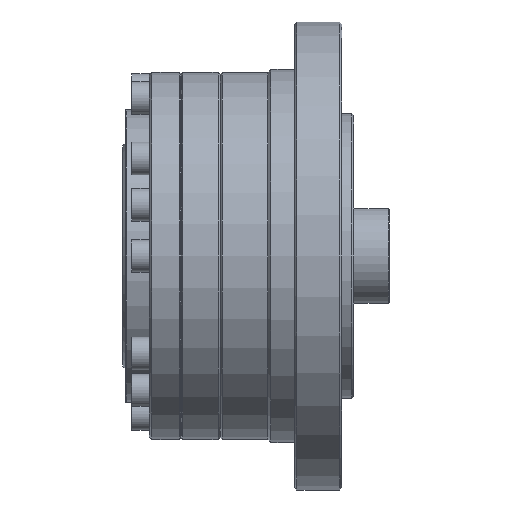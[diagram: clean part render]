
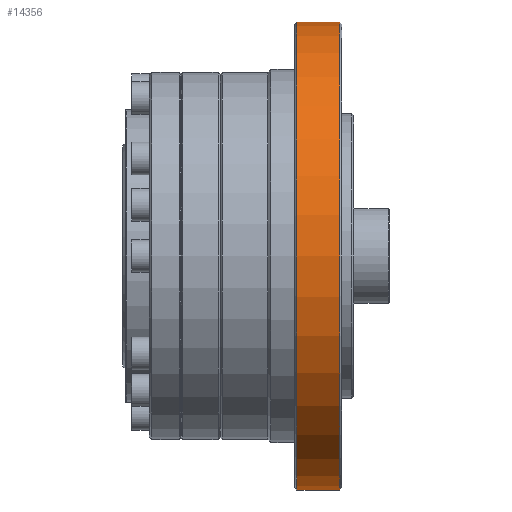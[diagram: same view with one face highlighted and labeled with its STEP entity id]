
A CAD part, front view. The second image highlights one B-rep face of the part: STEP entity #14356.
In plain terms, the highlighted cylindrical face has radius 39.5 mm (diameter 79 mm), a full revolution.
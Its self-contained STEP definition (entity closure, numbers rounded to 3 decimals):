
#68 = AXIS2_PLACEMENT_3D ( 'NONE', #9839, #6128, #19139 ) ;
#418 = DIRECTION ( 'NONE',  ( 1., 0., 0. ) ) ;
#2182 = DIRECTION ( 'NONE',  ( 0., 0., 1. ) ) ;
#2233 = FACE_OUTER_BOUND ( 'NONE', #23396, .T. ) ;
#2907 = ORIENTED_EDGE ( 'NONE', *, *, #16999, .F. ) ;
#2957 = CARTESIAN_POINT ( 'NONE',  ( 15.2, 0., 39.5 ) ) ;
#4149 = ORIENTED_EDGE ( 'NONE', *, *, #7511, .T. ) ;
#4244 = CARTESIAN_POINT ( 'NONE',  ( 15.2, 0., 0. ) ) ;
#6128 = DIRECTION ( 'NONE',  ( -1., 0., 0. ) ) ;
#6538 = FACE_OUTER_BOUND ( 'NONE', #19154, .T. ) ;
#7511 = EDGE_CURVE ( 'NONE', #19620, #19620, #8701, .T. ) ;
#7625 = CIRCLE ( 'NONE', #14696, 39.5 ) ;
#8701 = CIRCLE ( 'NONE', #23477, 39.5 ) ;
#9839 = CARTESIAN_POINT ( 'NONE',  ( -15.401, 0., 0. ) ) ;
#11493 = CARTESIAN_POINT ( 'NONE',  ( 22.4, 0., 0. ) ) ;
#13365 = DIRECTION ( 'NONE',  ( 0., 0., 1. ) ) ;
#14356 = ADVANCED_FACE ( 'NONE', ( #6538, #2233 ), #15872, .T. ) ;
#14696 = AXIS2_PLACEMENT_3D ( 'NONE', #11493, #418, #13365 ) ;
#15872 = CYLINDRICAL_SURFACE ( 'NONE', #68, 39.5 ) ;
#16999 = EDGE_CURVE ( 'NONE', #19034, #19034, #7625, .T. ) ;
#19034 = VERTEX_POINT ( 'NONE', #22767 ) ;
#19139 = DIRECTION ( 'NONE',  ( 0., 0., 1. ) ) ;
#19154 = EDGE_LOOP ( 'NONE', ( #2907 ) ) ;
#19620 = VERTEX_POINT ( 'NONE', #2957 ) ;
#21790 = DIRECTION ( 'NONE',  ( 1., 0., 0. ) ) ;
#22767 = CARTESIAN_POINT ( 'NONE',  ( 22.4, 0., 39.5 ) ) ;
#23396 = EDGE_LOOP ( 'NONE', ( #4149 ) ) ;
#23477 = AXIS2_PLACEMENT_3D ( 'NONE', #4244, #21790, #2182 ) ;
